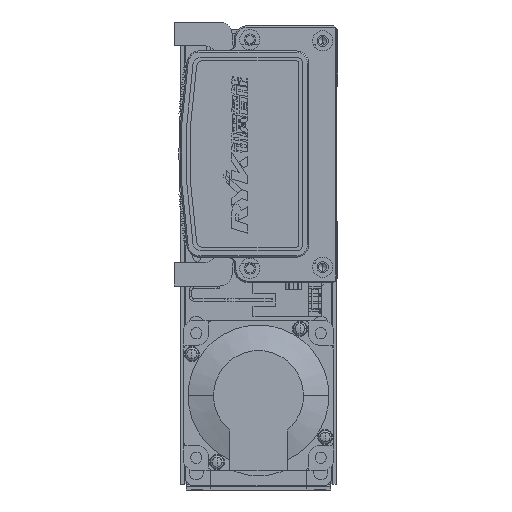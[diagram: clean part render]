
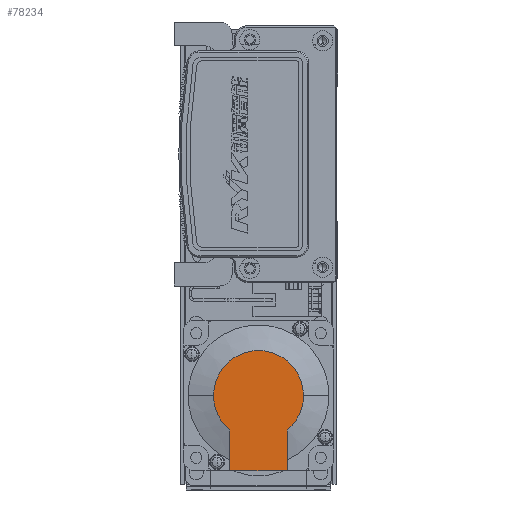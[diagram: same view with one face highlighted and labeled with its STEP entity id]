
A CAD part, left-side view. The second image highlights one B-rep face of the part: STEP entity #78234.
In plain terms, the highlighted planar face has unit normal (-1, 0, 0).
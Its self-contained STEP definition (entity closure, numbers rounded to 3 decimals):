
#3255 = CARTESIAN_POINT ( 'NONE',  ( -99., 0., -17.881 ) ) ;
#3302 = CARTESIAN_POINT ( 'NONE',  ( -99., 13.735, 11.45 ) ) ;
#3307 = CARTESIAN_POINT ( 'NONE',  ( -99., 0., 17.881 ) ) ;
#3432 = CARTESIAN_POINT ( 'NONE',  ( -99., 30., -11.45 ) ) ;
#3434 = CARTESIAN_POINT ( 'NONE',  ( -99., 13.735, -11.45 ) ) ;
#3469 = CARTESIAN_POINT ( 'NONE',  ( -99., 30., 11.45 ) ) ;
#5468 = CIRCLE ( 'NONE', #57760, 17.881 ) ;
#5521 = VECTOR ( 'NONE', #7543, 1000. ) ;
#5523 = LINE ( 'NONE', #7639, #5532 ) ;
#5532 = VECTOR ( 'NONE', #7643, 1000. ) ;
#5577 = LINE ( 'NONE', #7534, #5521 ) ;
#5714 = VECTOR ( 'NONE', #9972, 1000. ) ;
#5732 = LINE ( 'NONE', #9987, #5714 ) ;
#7354 = CARTESIAN_POINT ( 'NONE',  ( -99., 0., 0. ) ) ;
#7418 = DIRECTION ( 'NONE',  ( 0., 0., -1. ) ) ;
#7431 = DIRECTION ( 'NONE',  ( -1., 0., 0. ) ) ;
#7534 = CARTESIAN_POINT ( 'NONE',  ( -99., -8.941, -11.45 ) ) ;
#7543 = DIRECTION ( 'NONE',  ( 0., -1., 0. ) ) ;
#7639 = CARTESIAN_POINT ( 'NONE',  ( -99., 30., 25. ) ) ;
#7643 = DIRECTION ( 'NONE',  ( 0., 0., 1. ) ) ;
#9972 = DIRECTION ( 'NONE',  ( 0., -1., 0. ) ) ;
#9987 = CARTESIAN_POINT ( 'NONE',  ( -99., 0., 11.45 ) ) ;
#18692 = EDGE_CURVE ( 'NONE', #32494, #32486, #79974, .T. ) ;
#18786 = EDGE_CURVE ( 'NONE', #32548, #32494, #80012, .T. ) ;
#32486 = VERTEX_POINT ( 'NONE', #3302 ) ;
#32494 = VERTEX_POINT ( 'NONE', #3307 ) ;
#32548 = VERTEX_POINT ( 'NONE', #3255 ) ;
#32798 = VERTEX_POINT ( 'NONE', #3432 ) ;
#32820 = VERTEX_POINT ( 'NONE', #3434 ) ;
#32914 = VERTEX_POINT ( 'NONE', #3469 ) ;
#34515 = EDGE_CURVE ( 'NONE', #32820, #32548, #5468, .T. ) ;
#34602 = EDGE_CURVE ( 'NONE', #32798, #32820, #5577, .T. ) ;
#34623 = EDGE_CURVE ( 'NONE', #32798, #32914, #5523, .T. ) ;
#34854 = EDGE_CURVE ( 'NONE', #32914, #32486, #5732, .T. ) ;
#38492 = ORIENTED_EDGE ( 'NONE', *, *, #34623, .F. ) ;
#38497 = ORIENTED_EDGE ( 'NONE', *, *, #34515, .T. ) ;
#38514 = ORIENTED_EDGE ( 'NONE', *, *, #18692, .T. ) ;
#38526 = ORIENTED_EDGE ( 'NONE', *, *, #34602, .T. ) ;
#38581 = ORIENTED_EDGE ( 'NONE', *, *, #34854, .F. ) ;
#38597 = ORIENTED_EDGE ( 'NONE', *, *, #18786, .T. ) ;
#39807 = EDGE_LOOP ( 'NONE', ( #38526, #38497, #38597, #38514, #38581, #38492 ) ) ;
#49386 = AXIS2_PLACEMENT_3D ( 'NONE', #61278, #61273, #61297 ) ;
#57465 = AXIS2_PLACEMENT_3D ( 'NONE', #79137, #79161, #79168 ) ;
#57484 = AXIS2_PLACEMENT_3D ( 'NONE', #79294, #79303, #79313 ) ;
#57760 = AXIS2_PLACEMENT_3D ( 'NONE', #7354, #7431, #7418 ) ;
#61273 = DIRECTION ( 'NONE',  ( -1., 0., 0. ) ) ;
#61278 = CARTESIAN_POINT ( 'NONE',  ( -99., -8.941, 0. ) ) ;
#61288 = PLANE ( 'NONE',  #49386 ) ;
#61297 = DIRECTION ( 'NONE',  ( 0., 0., 1. ) ) ;
#61507 = FACE_OUTER_BOUND ( 'NONE', #39807, .T. ) ;
#78234 = ADVANCED_FACE ( 'NONE', ( #61507 ), #61288, .T. ) ;
#79137 = CARTESIAN_POINT ( 'NONE',  ( -99., 0., 0. ) ) ;
#79161 = DIRECTION ( 'NONE',  ( -1., 0., 0. ) ) ;
#79168 = DIRECTION ( 'NONE',  ( 0., 0., -1. ) ) ;
#79294 = CARTESIAN_POINT ( 'NONE',  ( -99., 0., 0. ) ) ;
#79303 = DIRECTION ( 'NONE',  ( -1., 0., 0. ) ) ;
#79313 = DIRECTION ( 'NONE',  ( 0., 0., -1. ) ) ;
#79974 = CIRCLE ( 'NONE', #57465, 17.881 ) ;
#80012 = CIRCLE ( 'NONE', #57484, 17.881 ) ;
